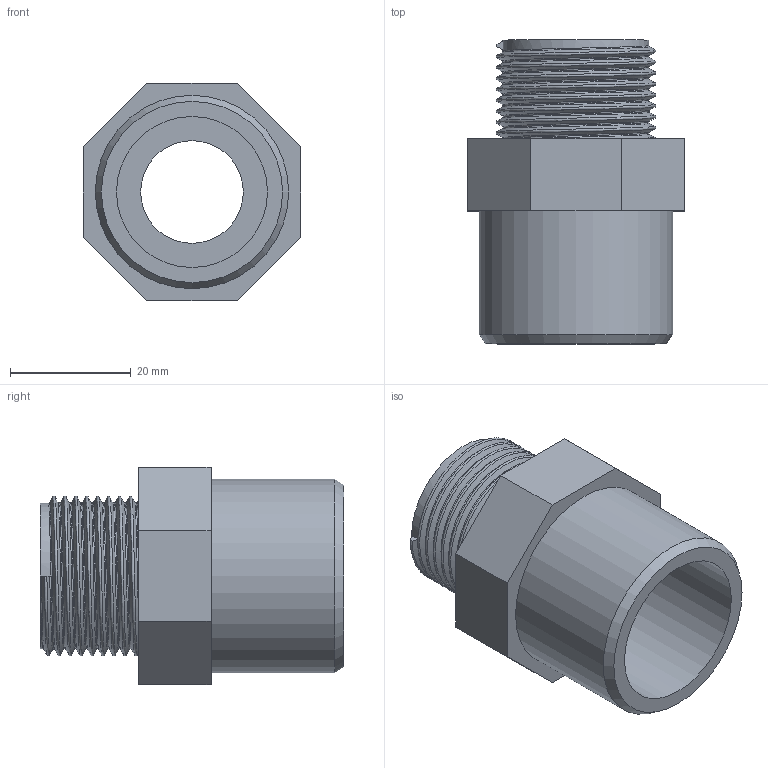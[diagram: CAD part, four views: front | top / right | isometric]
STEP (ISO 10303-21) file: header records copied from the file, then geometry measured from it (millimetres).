
FILE_DESCRIPTION(/* description */ ('PVC adattatore incollaggio-filettatura BSP maschio'),/* implementation_level */ '2;1');
FILE_NAME(/* name */ 'C:\Users\POLYPIPE\Desktop\DATASET INVENTOR\LIBRERIA EFFAST\RACCORDI 3DxWEB\RGR\3D_RGRAMG\3D_RGRAMG025C.stp',/* time_stamp */ '2018-01-19T17:34:53+01:00',/* author */ ('POLYPIPE'),/* organization */ ('Polypipe Italia s.r.l.'),/* preprocessor_version */ 'ST-DEVELOPER v16.1',/* originating_system */ 'Autodesk Inventor 2016',/* authorisation */ '');
FILE_SCHEMA (('CONFIG_CONTROL_DESIGN'));
Length unit declared in the file: millimetre
Products named in the file (1): 3D_RGRAMG
Bounding box: 36 x 50.3 x 36 mm (x, y, z)
Volume: 21608.4 mm3; surface area: 10613.9 mm2
Topology: 1 solids, 1 shells, 26 faces, 56 edges, 36 vertices
Faces by surface type: plane 15, cylinder 5, bspline 5, cone 1
Full cylindrical faces by diameter (mm): 17 x1, 18 x1, 24.117 x1, 25 x1, 32 x1
Entity records: 3949 total; most frequent: CARTESIAN_POINT 3396, ORIENTED_EDGE 102, DIRECTION 97, EDGE_CURVE 51, EDGE_LOOP 37, VERTEX_POINT 36, AXIS2_PLACEMENT_3D 35, LINE 27
